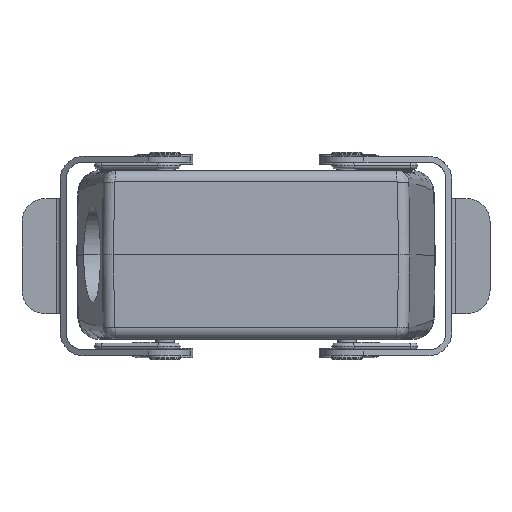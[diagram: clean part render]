
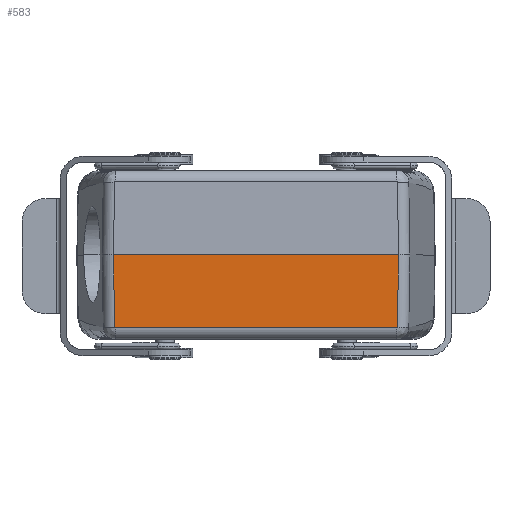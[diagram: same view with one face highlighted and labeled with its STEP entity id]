
A CAD part, top view. The second image highlights one B-rep face of the part: STEP entity #583.
In plain terms, the highlighted planar face has unit normal (0, -0.018, 1).
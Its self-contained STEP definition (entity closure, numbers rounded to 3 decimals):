
#228 = CARTESIAN_POINT ( 'NONE',  ( -36.903, -18.923, 59.67 ) ) ;
#541 = CARTESIAN_POINT ( 'NONE',  ( -36.771, -19.052, 59.667 ) ) ;
#583 = ADVANCED_FACE ( 'NONE', ( #22327 ), #19541, .T. ) ;
#1279 = VECTOR ( 'NONE', #16742, 1000. ) ;
#1449 = CARTESIAN_POINT ( 'NONE',  ( -36.903, -18.923, 59.67 ) ) ;
#1611 = EDGE_CURVE ( 'NONE', #21641, #12855, #16504, .T. ) ;
#1623 = CARTESIAN_POINT ( 'NONE',  ( -37.18, 0., 60. ) ) ;
#2382 = EDGE_CURVE ( 'NONE', #21641, #9020, #24788, .T. ) ;
#4913 = CARTESIAN_POINT ( 'NONE',  ( -36.889, -18.99, 59.669 ) ) ;
#5026 = CARTESIAN_POINT ( 'NONE',  ( 36.888, -18.987, 59.669 ) ) ;
#5454 = LINE ( 'NONE', #19781, #20248 ) ;
#6227 = VERTEX_POINT ( 'NONE', #20649 ) ;
#6252 = ORIENTED_EDGE ( 'NONE', *, *, #1611, .F. ) ;
#6559 = DIRECTION ( 'NONE',  ( -0.015, -1., -0.017 ) ) ;
#6874 = DIRECTION ( 'NONE',  ( -1., 0., 0. ) ) ;
#7059 = ORIENTED_EDGE ( 'NONE', *, *, #18071, .F. ) ;
#8334 = CARTESIAN_POINT ( 'NONE',  ( -66.197, -19.052, 59.667 ) ) ;
#8817 = DIRECTION ( 'NONE',  ( 0., -1., -0.017 ) ) ;
#9020 = VERTEX_POINT ( 'NONE', #541 ) ;
#9114 = CARTESIAN_POINT ( 'NONE',  ( -66.197, 0., 60. ) ) ;
#9362 = CARTESIAN_POINT ( 'NONE',  ( -36.807, -19.052, 59.667 ) ) ;
#11427 = VERTEX_POINT ( 'NONE', #14789 ) ;
#12006 = B_SPLINE_CURVE_WITH_KNOTS ( 'NONE', 3,
 ( #22019, #15595, #13608, #5026, #15688, #17857 ),
 .UNSPECIFIED., .F., .F.,
 ( 4, 2, 4 ),
 ( 0., 0.5, 1. ),
 .UNSPECIFIED. ) ;
#12855 = VERTEX_POINT ( 'NONE', #15638 ) ;
#13608 = CARTESIAN_POINT ( 'NONE',  ( 36.835, -19.039, 59.668 ) ) ;
#14445 = LINE ( 'NONE', #19270, #26591 ) ;
#14467 = CARTESIAN_POINT ( 'NONE',  ( 36.903, -18.917, 59.67 ) ) ;
#14789 = CARTESIAN_POINT ( 'NONE',  ( 37.18, 0., 60. ) ) ;
#15137 = EDGE_CURVE ( 'NONE', #11427, #12855, #5454, .T. ) ;
#15595 = CARTESIAN_POINT ( 'NONE',  ( 36.802, -19.052, 59.667 ) ) ;
#15638 = CARTESIAN_POINT ( 'NONE',  ( -37.18, 0., 60. ) ) ;
#15688 = CARTESIAN_POINT ( 'NONE',  ( 36.902, -18.955, 59.669 ) ) ;
#15839 = CARTESIAN_POINT ( 'NONE',  ( -36.771, -19.052, 59.667 ) ) ;
#16504 = B_SPLINE_CURVE_WITH_KNOTS ( 'NONE', 3,
 ( #1449, #25105, #27272, #1623 ),
 .UNSPECIFIED., .F., .F.,
 ( 4, 4 ),
 ( 0., 1. ),
 .UNSPECIFIED. ) ;
#16742 = DIRECTION ( 'NONE',  ( 1., 0., 0. ) ) ;
#16786 = ORIENTED_EDGE ( 'NONE', *, *, #19800, .T. ) ;
#16969 = ORIENTED_EDGE ( 'NONE', *, *, #2382, .T. ) ;
#17302 = ORIENTED_EDGE ( 'NONE', *, *, #18931, .T. ) ;
#17857 = CARTESIAN_POINT ( 'NONE',  ( 36.903, -18.917, 59.67 ) ) ;
#18071 = EDGE_CURVE ( 'NONE', #11427, #27119, #14445, .T. ) ;
#18931 = EDGE_CURVE ( 'NONE', #6227, #27119, #12006, .T. ) ;
#19270 = CARTESIAN_POINT ( 'NONE',  ( 37.18, 0., 60. ) ) ;
#19541 = PLANE ( 'NONE',  #24506 ) ;
#19781 = CARTESIAN_POINT ( 'NONE',  ( -66.197, 0., 60. ) ) ;
#19800 = EDGE_CURVE ( 'NONE', #9020, #6227, #22167, .T. ) ;
#19896 = CARTESIAN_POINT ( 'NONE',  ( -36.903, -18.923, 59.67 ) ) ;
#20248 = VECTOR ( 'NONE', #6874, 1000. ) ;
#20649 = CARTESIAN_POINT ( 'NONE',  ( 36.765, -19.052, 59.667 ) ) ;
#21641 = VERTEX_POINT ( 'NONE', #228 ) ;
#21725 = DIRECTION ( 'NONE',  ( 0., -0.017, 1. ) ) ;
#22019 = CARTESIAN_POINT ( 'NONE',  ( 36.765, -19.052, 59.667 ) ) ;
#22132 = EDGE_LOOP ( 'NONE', ( #7059, #26755, #6252, #16969, #16786, #17302 ) ) ;
#22167 = LINE ( 'NONE', #8334, #1279 ) ;
#22270 = CARTESIAN_POINT ( 'NONE',  ( -36.902, -18.959, 59.669 ) ) ;
#22327 = FACE_OUTER_BOUND ( 'NONE', #22132, .T. ) ;
#24506 = AXIS2_PLACEMENT_3D ( 'NONE', #9114, #21725, #8817 ) ;
#24788 = B_SPLINE_CURVE_WITH_KNOTS ( 'NONE', 3,
 ( #19896, #22270, #4913, #26680, #9362, #15839 ),
 .UNSPECIFIED., .F., .F.,
 ( 4, 2, 4 ),
 ( 0., 0.5, 1. ),
 .UNSPECIFIED. ) ;
#25105 = CARTESIAN_POINT ( 'NONE',  ( -36.995, -12.616, 59.78 ) ) ;
#26591 = VECTOR ( 'NONE', #6559, 1000. ) ;
#26680 = CARTESIAN_POINT ( 'NONE',  ( -36.838, -19.04, 59.668 ) ) ;
#26755 = ORIENTED_EDGE ( 'NONE', *, *, #15137, .T. ) ;
#27119 = VERTEX_POINT ( 'NONE', #14467 ) ;
#27272 = CARTESIAN_POINT ( 'NONE',  ( -37.088, -6.308, 59.89 ) ) ;
